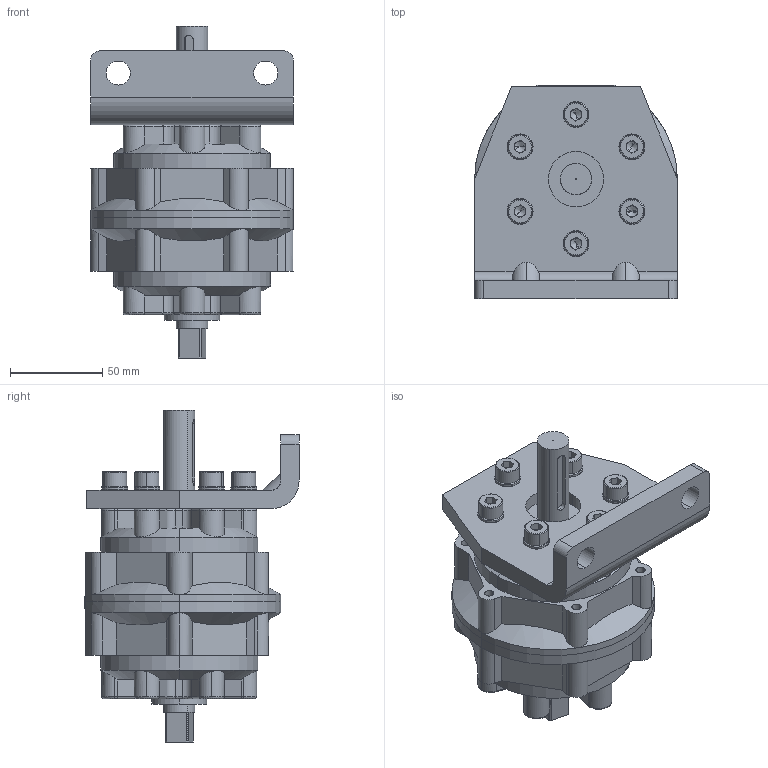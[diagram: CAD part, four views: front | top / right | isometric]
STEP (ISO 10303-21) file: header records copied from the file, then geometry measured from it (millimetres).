
FILE_DESCRIPTION (( 'STEP AP203' ), '1' );
FILE_NAME ('PRN150#-#-#-L1.STEP', '2016-01-14T16:42:39', ( '' ), ( '' ), 'SwSTEP 2.0', 'SolidWorks 2014', '' );
FILE_SCHEMA (( 'CONFIG_CONTROL_DESIGN' ));
Length unit declared in the file: millimetre
Products named in the file (8): PRN150 (2); PRN150#-#-#-L1; M8T2墊片; mark-PRN150; PRN150 (1); ISO 4762 M8 x 25; PRN150 (3); PRN150#-#-#-L1 (1)
Assembly tree (17 placements, depth 2):
  PRN150#-#-#-L1
    PRN150 (2)
    PRN150 (1)
    PRN150 (3)
    mark-PRN150
    PRN150#-#-#-L1 (1)
    ISO 4762 M8 x 25  x6
    M8T2墊片  x6
Bounding box: 110 x 116.11 x 180 mm (x, y, z)
Volume: 778812.8 mm3; surface area: 140289.5 mm2
Topology: 23 solids, 23 shells, 745 faces, 1818 edges, 1114 vertices
Faces by surface type: plane 284, cylinder 282, torus 101, cone 70, bspline 8
Entity records: 19039 total; most frequent: CARTESIAN_POINT 4199, DIRECTION 2987, ORIENTED_EDGE 2796, EDGE_CURVE 1398, AXIS2_PLACEMENT_3D 1143, VERTEX_POINT 889, LINE 701, VECTOR 701
